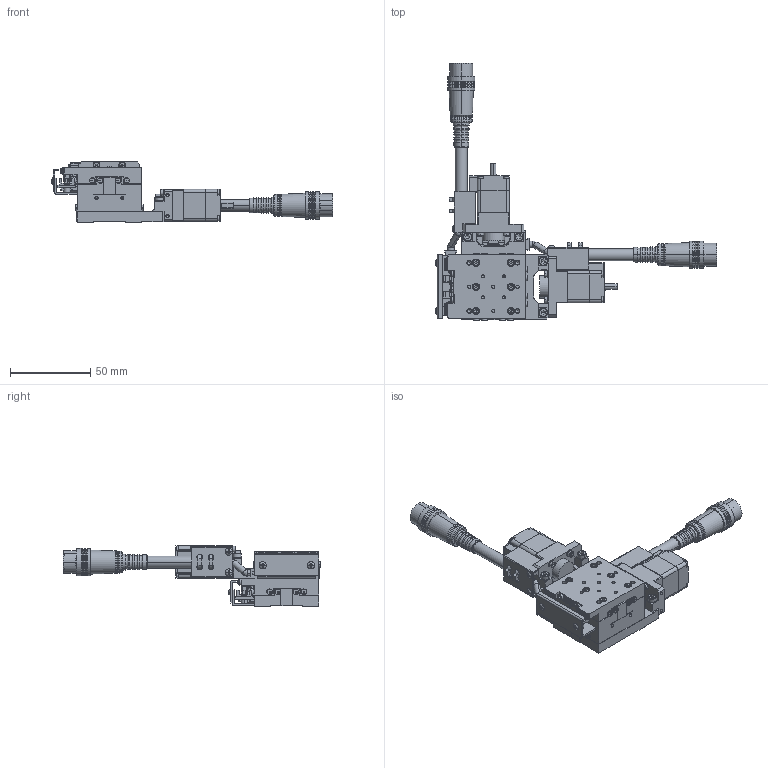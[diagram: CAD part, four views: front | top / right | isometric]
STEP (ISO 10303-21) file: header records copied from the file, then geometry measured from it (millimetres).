
FILE_DESCRIPTION( (''), '2;1');
FILE_NAME ('YA04A-R102-NNR.stp','2022-01-24T15:06:18',(''),(''),'spGate 17.5.5','','');
FILE_SCHEMA (('AUTOMOTIVE_DESIGN'));
Length unit declared in the file: millimetre
Products named in the file (8): Assembly; YA04A-R102-NNR-prt0; YA04A-R102-NNR-prt1; YA04A-R102-NNR-prt2; YA04A-R102-NNR-prt3; YA04A-R102-NNR-prt4; YA04A-R102-NNR-prt5; YA04A-R102-NNR-prt6
Assembly tree (7 placements, depth 2):
  Assembly
    YA04A-R102-NNR-prt0
    YA04A-R102-NNR-prt1
    YA04A-R102-NNR-prt2
    YA04A-R102-NNR-prt3
    YA04A-R102-NNR-prt4
    YA04A-R102-NNR-prt5
    YA04A-R102-NNR-prt6
Bounding box: 175.18 x 160 x 37.65 mm (x, y, z)
Volume: 117203.4 mm3; surface area: 61294.8 mm2
Topology: 7 solids, 11 shells, 3348 faces, 8294 edges, 5100 vertices
Faces by surface type: plane 2072, cylinder 700, bspline 540, sphere 36
Entity records: 167030 total; most frequent: CARTESIAN_POINT 24258, ORIENTED_EDGE 16308, DIRECTION 15192, COLOUR_RGB 11509, PRESENTATION_STYLE_ASSIGNMENT 11509, STYLED_ITEM 11509, EDGE_CURVE 8154, DRAUGHTING_PRE_DEFINED_CURVE_FONT 8154
